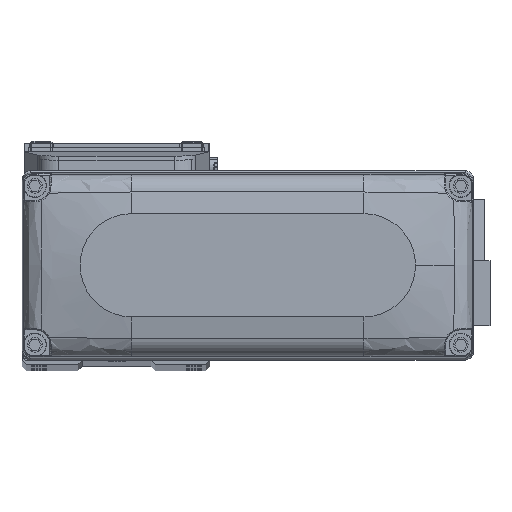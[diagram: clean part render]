
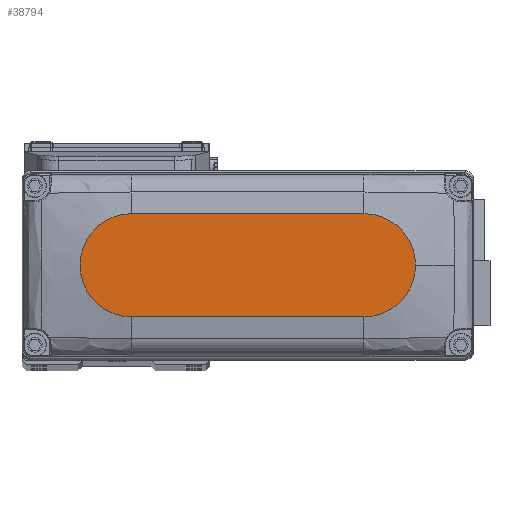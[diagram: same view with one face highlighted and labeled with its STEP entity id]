
A CAD part, top view. The second image highlights one B-rep face of the part: STEP entity #38794.
In plain terms, the highlighted planar face has unit normal (0, 0, 1).
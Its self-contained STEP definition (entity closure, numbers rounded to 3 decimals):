
#809 = CIRCLE ( 'NONE', #5955, 12. ) ;
#1858 = FACE_OUTER_BOUND ( 'NONE', #17021, .T. ) ;
#2782 = EDGE_CURVE ( 'NONE', #13394, #22409, #6550, .T. ) ;
#3406 = EDGE_CURVE ( 'NONE', #13075, #38846, #16428, .T. ) ;
#3731 = CARTESIAN_POINT ( 'NONE',  ( -27., 0., 25. ) ) ;
#5955 = AXIS2_PLACEMENT_3D ( 'NONE', #13773, #25990, #38217 ) ;
#6550 = LINE ( 'NONE', #18803, #21630 ) ;
#10180 = LINE ( 'NONE', #22412, #37214 ) ;
#10733 = ORIENTED_EDGE ( 'NONE', *, *, #19623, .T. ) ;
#10916 = AXIS2_PLACEMENT_3D ( 'NONE', #26339, #38557, #11107 ) ;
#11107 = DIRECTION ( 'NONE',  ( 1., 0., 0. ) ) ;
#13075 = VERTEX_POINT ( 'NONE', #21337 ) ;
#13109 = ORIENTED_EDGE ( 'NONE', *, *, #38697, .T. ) ;
#13394 = VERTEX_POINT ( 'NONE', #30031 ) ;
#13773 = CARTESIAN_POINT ( 'NONE',  ( 27., 0., 25. ) ) ;
#14112 = CARTESIAN_POINT ( 'NONE',  ( 27., 0., 25. ) ) ;
#14113 = PLANE ( 'NONE',  #10916 ) ;
#14757 = CIRCLE ( 'NONE', #37133, 12. ) ;
#15984 = DIRECTION ( 'NONE',  ( 0., 0., 1. ) ) ;
#16428 = CIRCLE ( 'NONE', #38826, 12. ) ;
#16950 = ORIENTED_EDGE ( 'NONE', *, *, #3406, .T. ) ;
#17021 = EDGE_LOOP ( 'NONE', ( #20218, #13109, #10733, #16950, #22159 ) ) ;
#17509 = CARTESIAN_POINT ( 'NONE',  ( 39., 0., 25. ) ) ;
#18803 = CARTESIAN_POINT ( 'NONE',  ( -27., 12., 25. ) ) ;
#19623 = EDGE_CURVE ( 'NONE', #26064, #13075, #10180, .T. ) ;
#20218 = ORIENTED_EDGE ( 'NONE', *, *, #2782, .T. ) ;
#21337 = CARTESIAN_POINT ( 'NONE',  ( 27., -12., 25. ) ) ;
#21630 = VECTOR ( 'NONE', #31016, 1000. ) ;
#22159 = ORIENTED_EDGE ( 'NONE', *, *, #27934, .T. ) ;
#22409 = VERTEX_POINT ( 'NONE', #32501 ) ;
#22412 = CARTESIAN_POINT ( 'NONE',  ( -27., -12., 25. ) ) ;
#25990 = DIRECTION ( 'NONE',  ( 0., 0., 1. ) ) ;
#26064 = VERTEX_POINT ( 'NONE', #27659 ) ;
#26338 = DIRECTION ( 'NONE',  ( 0., 0., 1. ) ) ;
#26339 = CARTESIAN_POINT ( 'NONE',  ( 0., 0., 25. ) ) ;
#27659 = CARTESIAN_POINT ( 'NONE',  ( -27., -12., 25. ) ) ;
#27934 = EDGE_CURVE ( 'NONE', #38846, #13394, #809, .T. ) ;
#28751 = DIRECTION ( 'NONE',  ( 1., 0., 0. ) ) ;
#30031 = CARTESIAN_POINT ( 'NONE',  ( 27., 12., 25. ) ) ;
#31016 = DIRECTION ( 'NONE',  ( -1., 0., 0. ) ) ;
#32501 = CARTESIAN_POINT ( 'NONE',  ( -27., 12., 25. ) ) ;
#34621 = DIRECTION ( 'NONE',  ( 1., 0., 0. ) ) ;
#37133 = AXIS2_PLACEMENT_3D ( 'NONE', #3731, #15984, #28751 ) ;
#37214 = VECTOR ( 'NONE', #34621, 1000. ) ;
#38217 = DIRECTION ( 'NONE',  ( 1., 0., 0. ) ) ;
#38556 = DIRECTION ( 'NONE',  ( 1., 0., 0. ) ) ;
#38557 = DIRECTION ( 'NONE',  ( 0., 0., 1. ) ) ;
#38697 = EDGE_CURVE ( 'NONE', #22409, #26064, #14757, .T. ) ;
#38794 = ADVANCED_FACE ( 'NONE', ( #1858 ), #14113, .T. ) ;
#38826 = AXIS2_PLACEMENT_3D ( 'NONE', #14112, #26338, #38556 ) ;
#38846 = VERTEX_POINT ( 'NONE', #17509 ) ;
